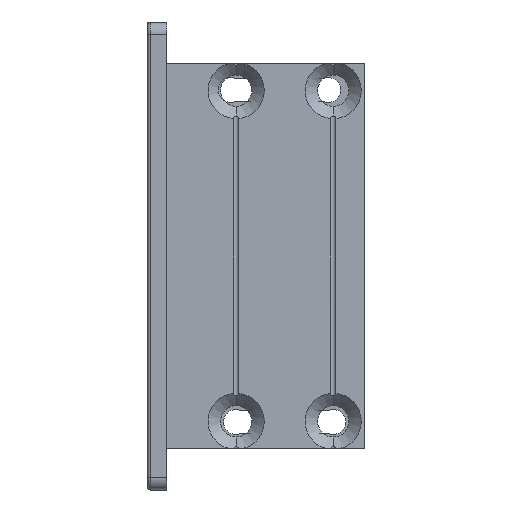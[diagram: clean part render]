
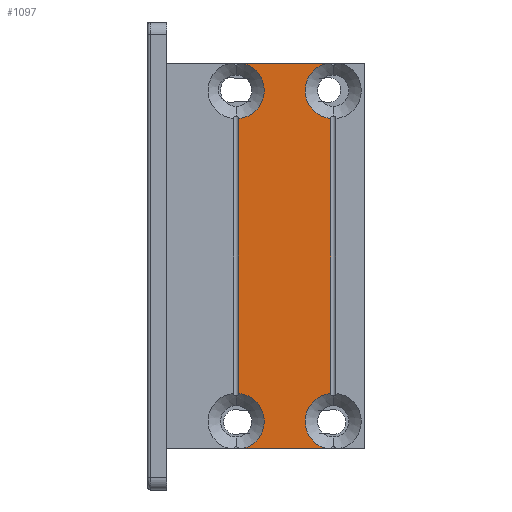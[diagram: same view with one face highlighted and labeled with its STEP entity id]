
A CAD part, left-side view. The second image highlights one B-rep face of the part: STEP entity #1097.
In plain terms, the highlighted planar face has unit normal (-1, 0, 0) as drawn and (1, 0, 0) by its records, which use the part's own axes.
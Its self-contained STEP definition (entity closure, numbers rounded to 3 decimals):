
#194=CARTESIAN_POINT('',(0.,-16.,-6.6));
#195=DIRECTION('',(-1.,0.,0.));
#196=DIRECTION('',(0.,0.27,0.963));
#197=AXIS2_PLACEMENT_3D('',#194,#195,#196);
#208=DIRECTION('',(0.,1.,0.));
#209=VECTOR('',#208,7.884);
#210=CARTESIAN_POINT('',(0.,-15.272,-4.));
#211=LINE('',#210,#209);
#212=CARTESIAN_POINT('',(0.,-6.66,-6.6));
#213=DIRECTION('',(1.,0.,0.));
#214=DIRECTION('',(0.,-0.27,0.963));
#215=AXIS2_PLACEMENT_3D('',#212,#213,#214);
#217=DIRECTION('',(0.,1.,0.));
#218=VECTOR('',#217,7.884);
#219=CARTESIAN_POINT('',(0.,-15.272,-41.));
#220=LINE('',#219,#218);
#221=DIRECTION('',(0.,0.,1.));
#222=VECTOR('',#221,26.423);
#223=CARTESIAN_POINT('',(0.,-15.75,-35.712));
#224=LINE('',#223,#222);
#243=CARTESIAN_POINT('',(0.,-7.388,-4.));
#245=CARTESIAN_POINT('',(0.,-15.272,-4.));
#358=CARTESIAN_POINT('',(0.,-15.272,-41.));
#360=CARTESIAN_POINT('',(0.,-7.388,-41.));
#384=CARTESIAN_POINT('',(0.,-16.,-38.4));
#385=DIRECTION('',(-1.,0.,0.));
#386=DIRECTION('',(0.,0.093,0.996));
#387=AXIS2_PLACEMENT_3D('',#384,#385,#386);
#411=CARTESIAN_POINT('',(0.,-6.66,-38.4));
#412=DIRECTION('',(-1.,0.,0.));
#413=DIRECTION('',(0.,-0.27,-0.963));
#414=AXIS2_PLACEMENT_3D('',#411,#412,#413);
#472=DIRECTION('',(0.,0.,1.));
#473=VECTOR('',#472,26.423);
#474=CARTESIAN_POINT('',(0.,-6.91,-35.712));
#475=LINE('',#474,#473);
#751=VERTEX_POINT('',#358);
#771=VERTEX_POINT('',#243);
#772=CARTESIAN_POINT('',(0.,-6.91,-9.288));
#773=VERTEX_POINT('',#772);
#780=VERTEX_POINT('',#360);
#782=VERTEX_POINT('',#245);
#787=CARTESIAN_POINT('',(0.,-15.75,-35.712));
#788=CARTESIAN_POINT('',(0.,-15.75,-9.288));
#789=VERTEX_POINT('',#787);
#790=VERTEX_POINT('',#788);
#791=CARTESIAN_POINT('',(0.,-6.91,-35.712));
#792=VERTEX_POINT('',#791);
#1075=CARTESIAN_POINT('',(0.,-15.75,0.));
#1076=DIRECTION('',(1.,0.,0.));
#1077=DIRECTION('',(0.,1.,0.));
#1078=AXIS2_PLACEMENT_3D('',#1075,#1076,#1077);
#1079=PLANE('',#1078);
#1080=ORIENTED_EDGE('',*,*,#1059,.F.);
#1082=ORIENTED_EDGE('',*,*,#1081,.T.);
#1084=ORIENTED_EDGE('',*,*,#1083,.T.);
#1086=ORIENTED_EDGE('',*,*,#1085,.F.);
#1088=ORIENTED_EDGE('',*,*,#1087,.F.);
#1090=ORIENTED_EDGE('',*,*,#1089,.F.);
#1092=ORIENTED_EDGE('',*,*,#1091,.F.);
#1094=ORIENTED_EDGE('',*,*,#1093,.T.);
#1095=EDGE_LOOP('',(#1080,#1082,#1084,#1086,#1088,#1090,#1092,#1094));
#1096=FACE_OUTER_BOUND('',#1095,.F.);
#1097=ADVANCED_FACE('',(#1096),#1079,.T.);
#198=CIRCLE('',#197,2.7);
#216=CIRCLE('',#215,2.7);
#388=CIRCLE('',#387,2.7);
#415=CIRCLE('',#414,2.7);
#1059=EDGE_CURVE('',#782,#790,#198,.T.);
#1081=EDGE_CURVE('',#782,#771,#211,.T.);
#1083=EDGE_CURVE('',#771,#773,#216,.T.);
#1085=EDGE_CURVE('',#792,#773,#475,.T.);
#1087=EDGE_CURVE('',#780,#792,#415,.T.);
#1089=EDGE_CURVE('',#751,#780,#220,.T.);
#1091=EDGE_CURVE('',#789,#751,#388,.T.);
#1093=EDGE_CURVE('',#789,#790,#224,.T.);
